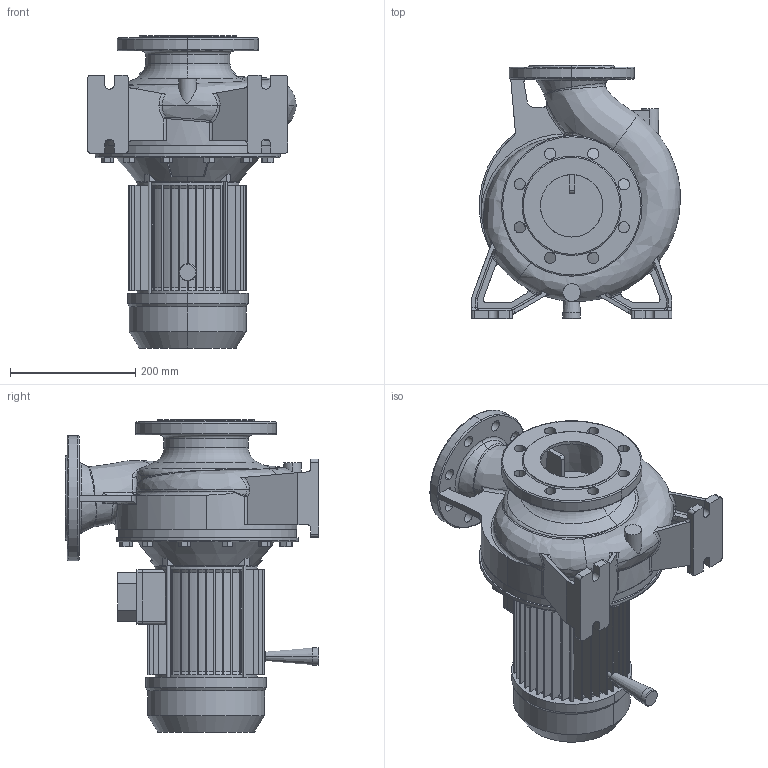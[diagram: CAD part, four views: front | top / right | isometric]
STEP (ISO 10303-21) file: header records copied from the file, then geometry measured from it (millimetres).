
FILE_DESCRIPTION((''),'2;1');
FILE_NAME('3M4_80-160_2_2_IE2_ASM','2018-06-04T',('rosa'),('"Ebara Pumps Europe +39.444.706811"'),'PRO/ENGINEER BY PARAMETRIC TECHNOLOGY CORPORATION, 2012130','PRO/ENGINEER BY PARAMETRIC TECHNOLOGY CORPORATION, 2012130','');
FILE_SCHEMA(('AUTOMOTIVE_DESIGN { 1 0 10303 214 1 1 1 1 }'));
Length unit declared in the file: millimetre
Products named in the file (5): CORPO_POMPA_80-160; SUPPORTO_3M_230_100; MEC_100X130_IE2; 72405; 3M4_80-160_2_2_IE2_ASM
Assembly tree (4 placements, depth 2):
  3M4_80-160_2_2_IE2_ASM
    CORPO_POMPA_80-160
    SUPPORTO_3M_230_100
    MEC_100X130_IE2
    72405
Bounding box: 333.66 x 405 x 499 mm (x, y, z)
Volume: 14835881.5 mm3; surface area: 1247513.9 mm2
Topology: 4 solids, 4 shells, 834 faces, 2099 edges, 1304 vertices
Faces by surface type: plane 424, cylinder 196, cone 94, bspline 82, torus 28, sphere 10
Entity records: 37910 total; most frequent: CARTESIAN_POINT 11371, ORIENTED_EDGE 4196, DIRECTION 3888, EDGE_CURVE 2098, PRESENTATION_STYLE_ASSIGNMENT 2087, STYLED_ITEM 2087, CURVE_STYLE 2084, AXIS2_PLACEMENT_3D 1412
